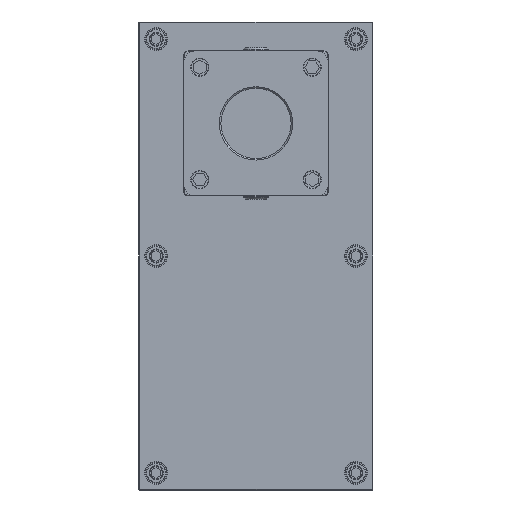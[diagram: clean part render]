
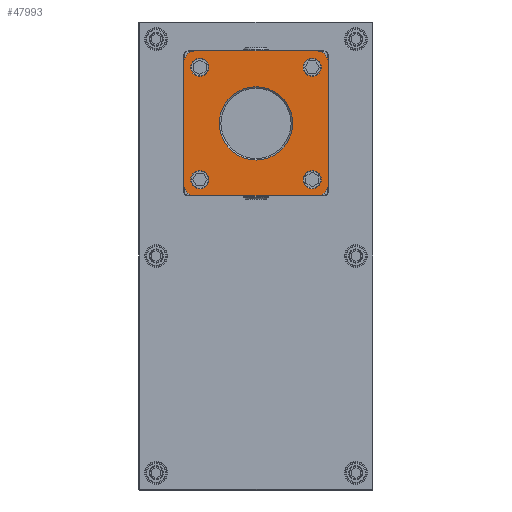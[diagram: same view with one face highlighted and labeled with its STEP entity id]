
A CAD part, front view. The second image highlights one B-rep face of the part: STEP entity #47993.
In plain terms, the highlighted planar face has unit normal (0, -1, 0).
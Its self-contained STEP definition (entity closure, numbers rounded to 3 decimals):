
#47048=CARTESIAN_POINT('',(38.5,-7.,38.5));
#47049=DIRECTION('',(0.,-1.,0.));
#47050=DIRECTION('',(1.,0.,0.));
#47051=AXIS2_PLACEMENT_3D('',#47048,#47049,#47050);
#47053=DIRECTION('',(0.,0.,-1.));
#47054=VECTOR('',#47053,77.);
#47055=CARTESIAN_POINT('',(46.5,-7.,38.5));
#47056=LINE('',#47055,#47054);
#47057=CARTESIAN_POINT('',(38.5,-7.,-38.5));
#47058=DIRECTION('',(0.,-1.,0.));
#47059=DIRECTION('',(0.,0.,-1.));
#47060=AXIS2_PLACEMENT_3D('',#47057,#47058,#47059);
#47062=DIRECTION('',(-1.,0.,0.));
#47063=VECTOR('',#47062,77.);
#47064=CARTESIAN_POINT('',(38.5,-7.,-46.5));
#47065=LINE('',#47064,#47063);
#47066=CARTESIAN_POINT('',(-38.5,-7.,-38.5));
#47067=DIRECTION('',(0.,-1.,0.));
#47068=DIRECTION('',(-1.,0.,0.));
#47069=AXIS2_PLACEMENT_3D('',#47066,#47067,#47068);
#47071=DIRECTION('',(0.,0.,1.));
#47072=VECTOR('',#47071,77.);
#47073=CARTESIAN_POINT('',(-46.5,-7.,-38.5));
#47074=LINE('',#47073,#47072);
#47075=CARTESIAN_POINT('',(-38.5,-7.,38.5));
#47076=DIRECTION('',(0.,-1.,0.));
#47077=DIRECTION('',(0.,0.,1.));
#47078=AXIS2_PLACEMENT_3D('',#47075,#47076,#47077);
#47080=DIRECTION('',(1.,0.,0.));
#47081=VECTOR('',#47080,77.);
#47082=CARTESIAN_POINT('',(-38.5,-7.,46.5));
#47083=LINE('',#47082,#47081);
#47084=CARTESIAN_POINT('',(36.,-7.,-36.));
#47085=DIRECTION('',(0.,1.,0.));
#47086=DIRECTION('',(1.,0.,0.));
#47087=AXIS2_PLACEMENT_3D('',#47084,#47085,#47086);
#47089=CARTESIAN_POINT('',(36.,-7.,-36.));
#47090=DIRECTION('',(0.,1.,0.));
#47091=DIRECTION('',(-1.,0.,0.));
#47092=AXIS2_PLACEMENT_3D('',#47089,#47090,#47091);
#47094=CARTESIAN_POINT('',(36.,-7.,36.));
#47095=DIRECTION('',(0.,1.,0.));
#47096=DIRECTION('',(-1.,0.,0.));
#47097=AXIS2_PLACEMENT_3D('',#47094,#47095,#47096);
#47099=CARTESIAN_POINT('',(36.,-7.,36.));
#47100=DIRECTION('',(0.,1.,0.));
#47101=DIRECTION('',(1.,0.,0.));
#47102=AXIS2_PLACEMENT_3D('',#47099,#47100,#47101);
#47104=CARTESIAN_POINT('',(-36.,-7.,36.));
#47105=DIRECTION('',(0.,1.,0.));
#47106=DIRECTION('',(-1.,0.,0.));
#47107=AXIS2_PLACEMENT_3D('',#47104,#47105,#47106);
#47109=CARTESIAN_POINT('',(-36.,-7.,36.));
#47110=DIRECTION('',(0.,1.,0.));
#47111=DIRECTION('',(1.,0.,0.));
#47112=AXIS2_PLACEMENT_3D('',#47109,#47110,#47111);
#47114=CARTESIAN_POINT('',(-36.,-7.,-36.));
#47115=DIRECTION('',(0.,1.,0.));
#47116=DIRECTION('',(1.,0.,0.));
#47117=AXIS2_PLACEMENT_3D('',#47114,#47115,#47116);
#47119=CARTESIAN_POINT('',(-36.,-7.,-36.));
#47120=DIRECTION('',(0.,1.,0.));
#47121=DIRECTION('',(-1.,0.,0.));
#47122=AXIS2_PLACEMENT_3D('',#47119,#47120,#47121);
#47124=CARTESIAN_POINT('',(0.,-7.,0.));
#47125=DIRECTION('',(0.,1.,0.));
#47126=DIRECTION('',(0.,0.,1.));
#47127=AXIS2_PLACEMENT_3D('',#47124,#47125,#47126);
#47129=CARTESIAN_POINT('',(0.,-7.,0.));
#47130=DIRECTION('',(0.,1.,0.));
#47131=DIRECTION('',(0.,0.,-1.));
#47132=AXIS2_PLACEMENT_3D('',#47129,#47130,#47131);
#47784=CARTESIAN_POINT('',(46.5,-7.,38.5));
#47785=CARTESIAN_POINT('',(38.5,-7.,46.5));
#47786=VERTEX_POINT('',#47784);
#47787=VERTEX_POINT('',#47785);
#47792=CARTESIAN_POINT('',(-38.5,-7.,46.5));
#47793=CARTESIAN_POINT('',(-46.5,-7.,38.5));
#47794=VERTEX_POINT('',#47792);
#47795=VERTEX_POINT('',#47793);
#47800=CARTESIAN_POINT('',(38.5,-7.,-46.5));
#47801=CARTESIAN_POINT('',(46.5,-7.,-38.5));
#47802=VERTEX_POINT('',#47800);
#47803=VERTEX_POINT('',#47801);
#47808=CARTESIAN_POINT('',(-46.5,-7.,-38.5));
#47809=CARTESIAN_POINT('',(-38.5,-7.,-46.5));
#47810=VERTEX_POINT('',#47808);
#47811=VERTEX_POINT('',#47809);
#47832=CARTESIAN_POINT('',(41.8,-7.,-36.));
#47833=CARTESIAN_POINT('',(30.2,-7.,-36.));
#47834=VERTEX_POINT('',#47832);
#47835=VERTEX_POINT('',#47833);
#47840=CARTESIAN_POINT('',(30.2,-7.,36.));
#47841=CARTESIAN_POINT('',(41.8,-7.,36.));
#47842=VERTEX_POINT('',#47840);
#47843=VERTEX_POINT('',#47841);
#47848=CARTESIAN_POINT('',(-41.8,-7.,36.));
#47849=CARTESIAN_POINT('',(-30.2,-7.,36.));
#47850=VERTEX_POINT('',#47848);
#47851=VERTEX_POINT('',#47849);
#47856=CARTESIAN_POINT('',(-30.2,-7.,-36.));
#47857=CARTESIAN_POINT('',(-41.8,-7.,-36.));
#47858=VERTEX_POINT('',#47856);
#47859=VERTEX_POINT('',#47857);
#47932=CARTESIAN_POINT('',(0.,-7.,23.5));
#47933=CARTESIAN_POINT('',(0.,-7.,-23.5));
#47934=VERTEX_POINT('',#47932);
#47935=VERTEX_POINT('',#47933);
#47940=CARTESIAN_POINT('',(0.,-7.,0.));
#47941=DIRECTION('',(0.,1.,0.));
#47942=DIRECTION('',(1.,0.,0.));
#47943=AXIS2_PLACEMENT_3D('',#47940,#47941,#47942);
#47944=PLANE('',#47943);
#47946=ORIENTED_EDGE('',*,*,#47945,.F.);
#47948=ORIENTED_EDGE('',*,*,#47947,.T.);
#47950=ORIENTED_EDGE('',*,*,#47949,.F.);
#47952=ORIENTED_EDGE('',*,*,#47951,.T.);
#47954=ORIENTED_EDGE('',*,*,#47953,.F.);
#47956=ORIENTED_EDGE('',*,*,#47955,.T.);
#47958=ORIENTED_EDGE('',*,*,#47957,.F.);
#47960=ORIENTED_EDGE('',*,*,#47959,.T.);
#47961=EDGE_LOOP('',(#47946,#47948,#47950,#47952,#47954,#47956,#47958,#47960));
#47962=FACE_OUTER_BOUND('',#47961,.F.);
#47964=ORIENTED_EDGE('',*,*,#47963,.F.);
#47966=ORIENTED_EDGE('',*,*,#47965,.F.);
#47967=EDGE_LOOP('',(#47964,#47966));
#47968=FACE_BOUND('',#47967,.F.);
#47970=ORIENTED_EDGE('',*,*,#47969,.F.);
#47972=ORIENTED_EDGE('',*,*,#47971,.F.);
#47973=EDGE_LOOP('',(#47970,#47972));
#47974=FACE_BOUND('',#47973,.F.);
#47976=ORIENTED_EDGE('',*,*,#47975,.F.);
#47978=ORIENTED_EDGE('',*,*,#47977,.F.);
#47979=EDGE_LOOP('',(#47976,#47978));
#47980=FACE_BOUND('',#47979,.F.);
#47982=ORIENTED_EDGE('',*,*,#47981,.F.);
#47984=ORIENTED_EDGE('',*,*,#47983,.F.);
#47985=EDGE_LOOP('',(#47982,#47984));
#47986=FACE_BOUND('',#47985,.F.);
#47988=ORIENTED_EDGE('',*,*,#47987,.F.);
#47990=ORIENTED_EDGE('',*,*,#47989,.F.);
#47991=EDGE_LOOP('',(#47988,#47990));
#47992=FACE_BOUND('',#47991,.F.);
#47993=ADVANCED_FACE('',(#47962,#47968,#47974,#47980,#47986,#47992),#47944,.F.);
#47052=CIRCLE('',#47051,8.);
#47061=CIRCLE('',#47060,8.);
#47070=CIRCLE('',#47069,8.);
#47079=CIRCLE('',#47078,8.);
#47088=CIRCLE('',#47087,5.8);
#47093=CIRCLE('',#47092,5.8);
#47098=CIRCLE('',#47097,5.8);
#47103=CIRCLE('',#47102,5.8);
#47108=CIRCLE('',#47107,5.8);
#47113=CIRCLE('',#47112,5.8);
#47118=CIRCLE('',#47117,5.8);
#47123=CIRCLE('',#47122,5.8);
#47128=CIRCLE('',#47127,23.5);
#47133=CIRCLE('',#47132,23.5);
#47945=EDGE_CURVE('',#47786,#47787,#47052,.T.);
#47947=EDGE_CURVE('',#47786,#47803,#47056,.T.);
#47949=EDGE_CURVE('',#47802,#47803,#47061,.T.);
#47951=EDGE_CURVE('',#47802,#47811,#47065,.T.);
#47953=EDGE_CURVE('',#47810,#47811,#47070,.T.);
#47955=EDGE_CURVE('',#47810,#47795,#47074,.T.);
#47957=EDGE_CURVE('',#47794,#47795,#47079,.T.);
#47959=EDGE_CURVE('',#47794,#47787,#47083,.T.);
#47963=EDGE_CURVE('',#47834,#47835,#47088,.T.);
#47965=EDGE_CURVE('',#47835,#47834,#47093,.T.);
#47969=EDGE_CURVE('',#47842,#47843,#47098,.T.);
#47971=EDGE_CURVE('',#47843,#47842,#47103,.T.);
#47975=EDGE_CURVE('',#47850,#47851,#47108,.T.);
#47977=EDGE_CURVE('',#47851,#47850,#47113,.T.);
#47981=EDGE_CURVE('',#47858,#47859,#47118,.T.);
#47983=EDGE_CURVE('',#47859,#47858,#47123,.T.);
#47987=EDGE_CURVE('',#47934,#47935,#47128,.T.);
#47989=EDGE_CURVE('',#47935,#47934,#47133,.T.);
